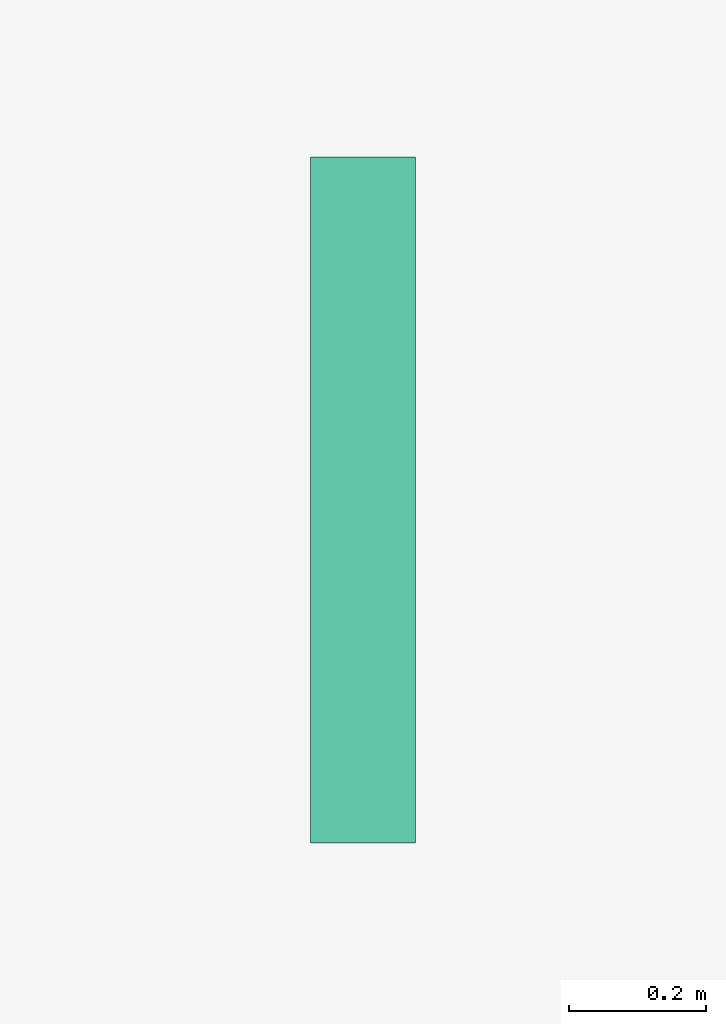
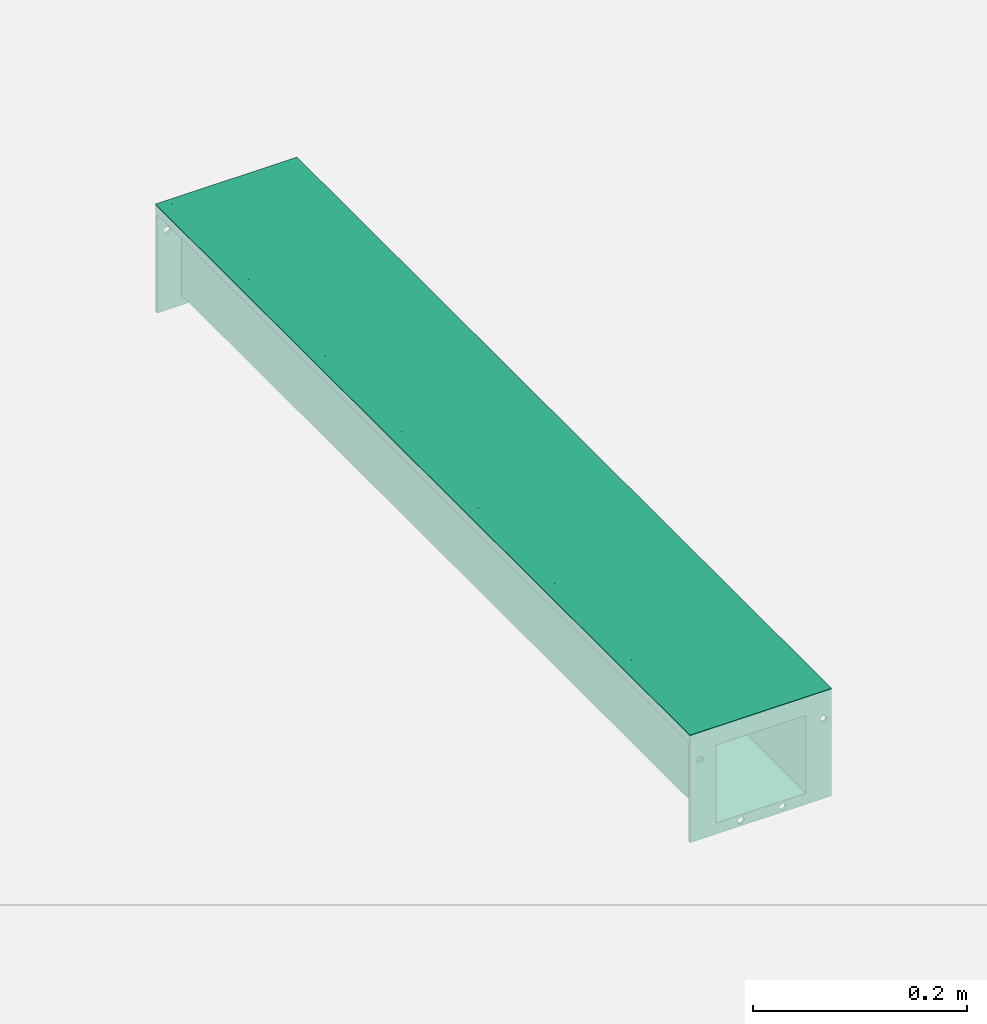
# One storey, part 2 of 2: 1 flow terminal.
"""IFC2X3 building model written with IfcOpenShell, lengths in millimetres."""

from ifc_helpers import new_model, entity, si_unit, converted_unit, direction, frame, frame_2d, origin, origin_2d_with_axis, place, context, subcontext, project, spatial, polyline, circle_curve, parameter, trimmed, segment, composite_curve, rectangle, outline, extrude, source, transform, mapped, material, material_list, element, save


model = new_model("IFC2X3")

# Units and contexts
model_context = context("Model", 3, precision=1e-06, world=origin(), true_north=direction((2.0, 6.12303176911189e-17, 1.0)))
context_of_model = context(None, 3, precision=1e-06, world=origin(), true_north=direction((2.0, 6.12303176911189e-17, 1.0)))
body_context = subcontext(model_context, "Body", "Model", "MODEL_VIEW")
ifc_project = project(units=[si_unit("LENGTHUNIT", "METRE", prefix="MILLI"), si_unit("AREAUNIT", "SQUARE_METRE", prefix="MILLI"), si_unit("VOLUMEUNIT", "CUBIC_METRE", prefix="MILLI"), converted_unit("PLANEANGLEUNIT", "DEGREE", entity("IfcRatioMeasure", 0.0174532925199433), si_unit("PLANEANGLEUNIT", "RADIAN"), dimensions=[0, 0, 0, 0, 0, 0, 0]), si_unit("TIMEUNIT", "SECOND")], contexts=[model_context, context_of_model])

# Site, building, storey
site_placement = place(None, origin())
site = spatial("IfcSite", under=ifc_project, at=site_placement, Name="Default", CompositionType="ELEMENT")
building_placement = place(site_placement, origin())
building = spatial("IfcBuilding", under=site, at=building_placement, CompositionType="ELEMENT")
storey_placement = place(building_placement, origin())
storey = spatial("IfcBuildingStorey", under=building, at=storey_placement, Name="Level 1", CompositionType="ELEMENT", Elevation=0.0)

# Flow terminal
ifc_material_1 = material(Name="Stainless Steel AISI 304")
ifc_material_2 = material(Name="Polystyrene, High Impact (F)")
ifc_material_list = material_list([ifc_material_1, ifc_material_2])
shared_shape = source(origin(), body_context, "Body", "SweptSolid", [
    extrude(rectangle(XDim=1000.0, YDim=124.999917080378, at=origin_2d_with_axis()), frame((4.14598109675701e-05, 500.0, -21.0), z_axis=(0.0, 0.0, 1.0), x_axis=(0.0, 1.0, 0.0)), (0.0, 0.0, 1.0), 20.9999999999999),
    extrude(outline(polyline([(-76.5000276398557, -45.8000000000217), (-62.4999447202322, -45.8000000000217), (-62.4999447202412, -24.8000000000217), (-48.4999447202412, -24.8000000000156), (-48.4999447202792, 64.1999999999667), (48.4999723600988, 64.2000000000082), (48.4999723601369, -24.7999999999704), (62.4999723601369, -24.7999999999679), (62.4999723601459, -45.7999999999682), (76.499972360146, -45.7999999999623), (76.4999723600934, 77.0), (-76.5000276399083, 77.0), (-76.5000276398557, -45.8000000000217)]), holes=[composite_curve([segment(trimmed(circle_curve(frame_2d((67.7349848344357, -13.9014274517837), x_axis=(1.0, 0.0)), 3.5), [parameter(0.0)], [parameter(180.0)], True, "PARAMETER"), False, "CONTINUOUS"), segment(trimmed(circle_curve(frame_2d((67.7349848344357, -13.9014274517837), x_axis=(1.0, 0.0)), 3.5), [parameter(180.0)], [parameter(360.0)], True, "PARAMETER"), False, "CONTINUOUS")], self_intersect=False), composite_curve([segment(trimmed(circle_curve(frame_2d((23.7349848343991, 70.9218749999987), x_axis=(1.0, 0.0)), 3.5), [parameter(0.0)], [parameter(180.0)], True, "PARAMETER"), False, "CONTINUOUS"), segment(trimmed(circle_curve(frame_2d((23.7349848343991, 70.9218749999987), x_axis=(1.0, 0.0)), 3.5), [parameter(180.0)], [parameter(0.0)], True, "PARAMETER"), False, "CONTINUOUS")], self_intersect=False), composite_curve([segment(trimmed(circle_curve(frame_2d((-21.2650151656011, 70.9218749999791), x_axis=(1.0, 0.0)), 3.5), [parameter(179.999999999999)], [parameter(360.0)], True, "PARAMETER"), False, "CONTINUOUS"), segment(trimmed(circle_curve(frame_2d((-21.2650151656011, 70.9218749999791), x_axis=(1.0, 0.0)), 3.5), [parameter(360.0)], [parameter(180.0)], True, "PARAMETER"), False, "CONTINUOUS")], self_intersect=False), composite_curve([segment(trimmed(circle_curve(frame_2d((-65.265015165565, -13.9014274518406), x_axis=(1.0, 0.0)), 3.5), [parameter(179.999999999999)], [parameter(360.0)], True, "PARAMETER"), False, "CONTINUOUS"), segment(trimmed(circle_curve(frame_2d((-65.265015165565, -13.9014274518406), x_axis=(1.0, 0.0)), 3.5), [parameter(0.0)], [parameter(180.0)], True, "PARAMETER"), False, "CONTINUOUS")], self_intersect=False)]), frame((2.7639875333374e-05, 997.0, -45.8000000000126), z_axis=(0.0, 1.0, 0.0), x_axis=(1.0, 0.0, 0.0)), (0.0, 0.0, 1.0), 2.99999999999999),
    extrude(outline(polyline([(-76.4999585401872, -45.80000137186), (-62.4999585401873, -45.80000137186), (-62.4999585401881, -24.8000013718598), (-48.499958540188, -24.8000013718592), (-48.4999585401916, 64.1999986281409), (48.4999585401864, 64.1999986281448), (48.49995854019, -24.8000013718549), (62.49995854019, -24.8000013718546), (62.4999585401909, -45.800001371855), (76.4999585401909, -45.8000013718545), (76.499958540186, 77.0000068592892), (-76.4999585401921, 77.0000068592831), (-76.4999585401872, -45.80000137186)]), holes=[composite_curve([segment(trimmed(circle_curve(frame_2d((67.734971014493, -13.9014288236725), x_axis=(1.0, 0.0)), 3.5), [parameter(0.0)], [parameter(180.0)], True, "PARAMETER"), False, "CONTINUOUS"), segment(trimmed(circle_curve(frame_2d((67.734971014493, -13.9014288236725), x_axis=(1.0, 0.0)), 3.5), [parameter(180.0)], [parameter(360.0)], True, "PARAMETER"), False, "CONTINUOUS")], self_intersect=False), composite_curve([segment(trimmed(circle_curve(frame_2d((23.7349710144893, 70.9218818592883), x_axis=(1.0, 0.0)), 3.5), [parameter(0.0)], [parameter(180.0)], True, "PARAMETER"), False, "CONTINUOUS"), segment(trimmed(circle_curve(frame_2d((23.7349710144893, 70.9218818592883), x_axis=(1.0, 0.0)), 3.5), [parameter(180.0)], [parameter(359.999999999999)], True, "PARAMETER"), False, "CONTINUOUS")], self_intersect=False), composite_curve([segment(trimmed(circle_curve(frame_2d((-21.2650289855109, 70.9218818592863), x_axis=(1.0, 0.0)), 3.5), [parameter(180.0)], [parameter(360.0)], True, "PARAMETER"), False, "CONTINUOUS"), segment(trimmed(circle_curve(frame_2d((-21.2650289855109, 70.9218818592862), x_axis=(1.0, 0.0)), 3.5), [parameter(360.0)], [parameter(180.0)], True, "PARAMETER"), False, "CONTINUOUS")], self_intersect=False), composite_curve([segment(trimmed(circle_curve(frame_2d((-65.2650289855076, -13.9014288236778), x_axis=(1.0, 0.0)), 3.5), [parameter(180.0)], [parameter(0.0)], True, "PARAMETER"), False, "CONTINUOUS"), segment(trimmed(circle_curve(frame_2d((-65.2650289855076, -13.9014288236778), x_axis=(1.0, 0.0)), 3.5), [parameter(0.0)], [parameter(180.0)], True, "PARAMETER"), False, "CONTINUOUS")], self_intersect=False)]), frame((4.14598109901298e-05, 0.0, -45.8000013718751), z_axis=(0.0, 1.0, 0.0), x_axis=(1.0, 0.0, 0.0)), (0.0, 0.0, 1.0), 3.0),
    extrude(outline(polyline([(-27.6243423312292, -62.4999585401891), (-27.6243423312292, -76.499958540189), (-17.6243423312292, -76.499958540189), (-17.6243423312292, -74.999958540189), (-26.1243423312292, -74.999958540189), (-26.1243423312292, -63.9999585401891), (-5.12434233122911, -63.9999585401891), (-5.12434233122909, -49.999958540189), (83.8717116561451, -49.999958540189), (83.8717116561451, 49.999958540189), (-5.12434233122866, 49.999958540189), (-5.12434233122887, 63.999958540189), (-26.124342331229, 63.9999585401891), (-26.1243423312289, 74.9999585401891), (-17.6243423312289, 74.9999585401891), (-17.6243423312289, 76.4999585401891), (-27.6243423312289, 76.4999585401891), (-27.624342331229, 62.4999585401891), (-6.62434233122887, 62.499958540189), (-6.62434233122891, 48.499958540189), (82.3717116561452, 48.499958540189), (82.3717116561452, -48.499958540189), (-6.62434233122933, -48.499958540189), (-6.62434233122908, -62.4999585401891), (-27.6243423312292, -62.4999585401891)])), frame((4.14598110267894e-05, 3.0, -27.6282883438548), z_axis=(0.0, -1.0, 0.0), x_axis=(0.0, 0.0, -1.0)), (0.0, 0.0, -1.0), 994.0),
    extrude(rectangle(XDim=997.0, YDim=11.0, at=frame_2d((8.5265128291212e-14, 0.0), x_axis=(1.0, 0.0))), frame((69.5000000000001, 501.5, -10.0), z_axis=(0.0, 0.0, 1.0), x_axis=(0.0, 1.0, 0.0)), (0.0, 0.0, 1.0), 8.50000000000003),
    extrude(rectangle(XDim=997.0, YDim=10.9999999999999, at=frame_2d((8.5265128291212e-14, 0.0), x_axis=(1.0, 0.0))), frame((-69.499917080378, 501.5, -10.0), z_axis=(0.0, 0.0, 1.0), x_axis=(0.0, 1.0, 0.0)), (0.0, 0.0, 1.0), 8.50000000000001),
])
flow_terminal_placement = place(storey_placement, frame((-88.2515443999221, -389.522595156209, 0.0)))
element("IfcFlowTerminal", 1, at=flow_terminal_placement, inside=storey, material=ifc_material_list, Name="ACO BD Modular 125 Level Invert Straight Channels:105131 - Straight Channel - 1000mm LG - Invert Depth 110mm:105131 - Straight Channel - 1000mm LG - Invert Depth 110mm", ObjectType="105131 - Straight Channel - 1000mm LG - Invert Depth 110mm", context=body_context, shape_type="MappedRepresentation", body=[
    mapped(shared_shape, transform((0.0, 0.0, 0.0), scale=1.0)),
])

save(model, "model.ifc")
